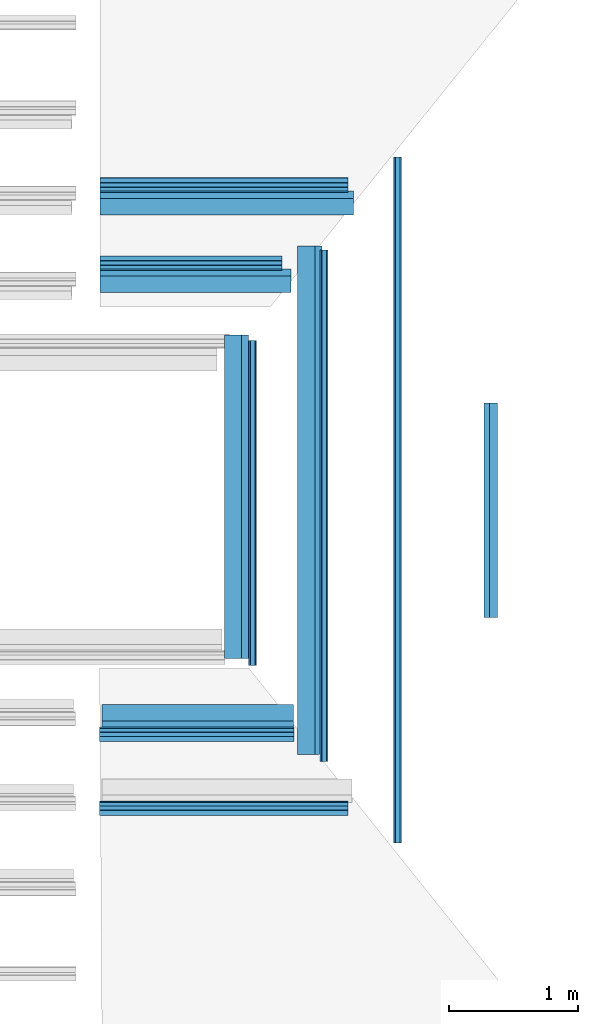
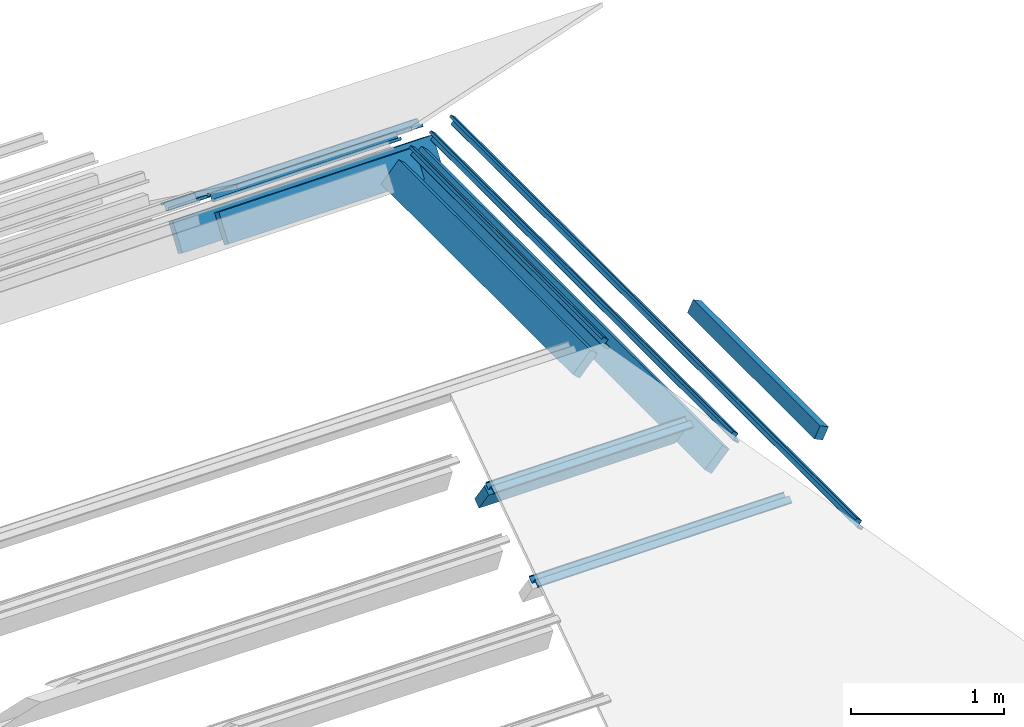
# One storey, part 4 of 6: 13 beams.
"""IFC2X3 building model written with IfcOpenShell, lengths in centimetres."""

from ifc_helpers import new_model, entity, si_unit, converted_unit, direction, frame, frame_2d, origin, place, context, subcontext, project, spatial, polyline, circle_curve, parameter, trimmed, segment, composite_curve, rectangle, outline, extrude, material, type_object, element, save


model = new_model("IFC2X3")

# Units and contexts
model_context = context("Model", 3, precision=0.001, world=frame((0.0, 0.0, 13090.0)), true_north=direction((6.123233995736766e-17, 1.0)))
body_context = subcontext(model_context, "Body", "Model", "MODEL_VIEW")
ifc_project = project(units=[si_unit("LENGTHUNIT", "METRE", prefix="CENTI"), si_unit("AREAUNIT", "SQUARE_METRE"), si_unit("VOLUMEUNIT", "CUBIC_METRE"), converted_unit("PLANEANGLEUNIT", "DEGREE", entity("IfcPlaneAngleMeasure", 0.017453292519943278), si_unit("PLANEANGLEUNIT", "RADIAN"), dimensions=[0, 0, 0, 0, 0, 0, 0])], contexts=[model_context])

# Site, building, storey
site_placement = place(None, origin())
site = spatial("IfcSite", under=ifc_project, at=site_placement, Name="Default", CompositionType="ELEMENT")
building_placement = place(site_placement, origin())
building = spatial("IfcBuilding", under=site, at=building_placement, Name="e 39 logements et 22 maisons relais", CompositionType="ELEMENT")
storey_placement = place(building_placement, frame((0.0, 0.0, 810.0)))
storey = spatial("IfcBuildingStorey", under=building, at=storey_placement, Name="R+3", CompositionType="ELEMENT", Elevation=810.0000000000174)

# Beams
ifc_material_1 = material(Name="Bois - Bois de construction de dimensions courantes")
beam_type_1 = type_object("IfcBeamType", Name="Poutre - Bois de construction de dimensions courantes:70 220", PredefinedType="BEAM")
beam_1_placement = place(storey_placement, frame((286.634807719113, 212.95830698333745, -95.2501533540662)))
element("IfcBeam", 1, at=beam_1_placement, inside=storey, type_object=beam_type_1, material=ifc_material_1, Name="Poutre - Bois de construction de dimensions courantes:70 220", ObjectType="Poutre - Bois de construction de dimensions courantes:70 220", context=body_context, shape_type="SweptSolid", body=[
    extrude(rectangle(XDim=21.999999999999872, YDim=7.000000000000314, at=frame_2d((3.1308289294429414e-14, -4.3520742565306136e-14), x_axis=(0.0, 1.0))), frame((321.05529287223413, -6.309340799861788, -9.010672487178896), z_axis=(1.0, 0.0, 0.0), x_axis=(0.0, -0.8191520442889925, 0.5735764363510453)), (0.0, 0.0, 1.0), 195.81808429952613),
])
beam_2_placement = place(storey_placement, frame((286.63480771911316, 152.86204513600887, -51.70688154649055)))
element("IfcBeam", 2, at=beam_2_placement, inside=storey, type_object=beam_type_1, material=ifc_material_1, Name="Poutre - Bois de construction de dimensions courantes:70 220", ObjectType="Poutre - Bois de construction de dimensions courantes:70 220", context=body_context, shape_type="SweptSolid", body=[
    extrude(rectangle(XDim=21.999999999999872, YDim=7.000000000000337, at=frame_2d((-4.1744385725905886e-14, 3.730349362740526e-14), x_axis=(0.0, 1.0))), frame((321.0552928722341, -6.309340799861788, -9.010672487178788), z_axis=(1.0, 0.0, 0.0), x_axis=(0.0, -0.8191520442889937, 0.5735764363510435)), (0.0, 0.0, 1.0), 147.5732498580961),
])
beam_3_placement = place(storey_placement, frame((286.63480771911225, -196.54922966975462, -61.80907122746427)))
element("IfcBeam", 3, at=beam_3_placement, inside=storey, type_object=beam_type_1, material=ifc_material_1, Name="Poutre - Bois de construction de dimensions courantes:70 220", ObjectType="Poutre - Bois de construction de dimensions courantes:70 220", context=body_context, shape_type="SweptSolid", body=[
    extrude(rectangle(XDim=21.999999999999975, YDim=7.000000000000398, at=frame_2d((4.3520742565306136e-14, -3.1308289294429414e-14), x_axis=(1.0, 0.0))), frame((322.52620840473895, 6.309340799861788, -9.010672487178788), z_axis=(1.0, 0.0, 0.0), x_axis=(0.0, -0.5735764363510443, 0.8191520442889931)), (0.0, 0.0, 1.0), 147.75069344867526),
])
beam_type_2 = type_object("IfcBeamType", Name="Poutre - Bois de construction de dimensions courantes:70 200", PredefinedType="BEAM")
beam_4_placement = place(storey_placement, frame((776.2956395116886, 514.0076677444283, -71.92904448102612), z_axis=(0.0, 0.0, 1.0), x_axis=(0.0, -1.0, 0.0)))
element("IfcBeam", 4, at=beam_4_placement, inside=storey, type_object=beam_type_2, material=ifc_material_1, Name="Poutre - Bois de construction de dimensions courantes:70 200", ObjectType="Poutre - Bois de construction de dimensions courantes:70 200", context=body_context, shape_type="SweptSolid", body=[
    extrude(rectangle(XDim=19.999999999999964, YDim=7.000000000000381, at=frame_2d((-3.9968028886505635e-15, -7.72715225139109e-14), x_axis=(0.0, 1.0))), frame((340.5954574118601, -6.69130606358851, -7.4314482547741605), z_axis=(1.0, 0.0, 0.0), x_axis=(0.0, -0.7431448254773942, 0.6691306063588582)), (0.0, 0.0, 1.0), 393.0256257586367),
])
beam_5_placement = place(storey_placement, frame((719.6493766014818, 514.007667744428, -21.13802129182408), z_axis=(0.0, 0.0, 1.0), x_axis=(0.0, -1.0, 0.0)))
element("IfcBeam", 5, at=beam_5_placement, inside=storey, type_object=beam_type_2, material=ifc_material_1, Name="Poutre - Bois de construction de dimensions courantes:70 200", ObjectType="Poutre - Bois de construction de dimensions courantes:70 200", context=body_context, shape_type="SweptSolid", body=[
    extrude(rectangle(XDim=19.99999999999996, YDim=7.00000000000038, at=frame_2d((3.774758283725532e-15, 7.72715225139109e-14), x_axis=(0.0, 1.0))), frame((409.256331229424, -6.691306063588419, -7.4314482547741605), z_axis=(1.0, 0.0, 0.0), x_axis=(0.0, -0.7431448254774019, 0.6691306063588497)), (0.0, 0.0, 1.0), 250.2702016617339),
])
beam_type_3 = type_object("IfcBeamType", Name="Poutre - Bois de construction de dimensions courantes:70 100", PredefinedType="BEAM")
beam_6_placement = place(storey_placement, frame((946.877073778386, 147.73427520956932, -92.86580211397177), z_axis=(0.0, 0.0, 1.0), x_axis=(0.0, -1.0, 0.0)))
element("IfcBeam", 6, at=beam_6_placement, inside=storey, type_object=beam_type_3, material=ifc_material_1, Name="Poutre - Bois de construction de dimensions courantes:70 100", ObjectType="Poutre - Bois de construction de dimensions courantes:70 100", context=body_context, shape_type="SweptSolid", body=[
    extrude(rectangle(XDim=10.000000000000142, YDim=7.00000000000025, at=frame_2d((2.531308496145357e-14, 7.194245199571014e-14), x_axis=(0.0, 1.0))), frame((95.56011376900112, -37.45446542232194, -78.52491973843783), z_axis=(1.0, 0.0, 0.0), x_axis=(0.0, -0.9025852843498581, 0.43051109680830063)), (0.0, 0.0, 1.0), 165.75517344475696),
])
ifc_material_2 = material(Name="neuf")
beam_type_4 = type_object("IfcBeamType", Name="panne z:panne z", PredefinedType="BEAM")
beam_7_placement = place(storey_placement, frame((849.925426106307, 514.0076677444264, -99.32404114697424), z_axis=(0.0, 0.0, 1.0), x_axis=(0.0, -1.0, 0.0)))
element("IfcBeam", 7, at=beam_7_placement, inside=storey, type_object=beam_type_4, material=ifc_material_2, Name="panne z:panne z", ObjectType="panne z:panne z", context=body_context, shape_type="SweptSolid", body=[
    extrude(outline(composite_curve([segment(polyline([(0.29999999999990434, -3.0), (4.59999999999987, -3.0)]), True, "CONTINUOUS"), segment(trimmed(circle_curve(frame_2d((4.600000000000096, -2.6000000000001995), x_axis=(0.0, -1.0)), 0.399999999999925), [parameter(0.0)], [parameter(90.000000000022)], True, "PARAMETER"), True, "CONTINUOUS"), segment(polyline([(5.0, -2.6000000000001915), (5.0, -1.0)]), True, "CONTINUOUS"), segment(polyline([(5.0, -1.0), (4.799999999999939, -1.0)]), True, "CONTINUOUS"), segment(polyline([(4.80000000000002, -1.0), (4.799999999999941, -2.6000000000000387)]), True, "CONTINUOUS"), segment(trimmed(circle_curve(frame_2d((4.59999999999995, -2.6000000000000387), x_axis=(1.0, 0.0)), 0.20000000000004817), [parameter(270.0000000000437)], [parameter(0.0)], True, "PARAMETER"), False, "CONTINUOUS"), segment(polyline([(4.599999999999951, -2.8000000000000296), (0.2999999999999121, -2.79999999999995)]), True, "CONTINUOUS"), segment(trimmed(circle_curve(frame_2d((0.30000000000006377, -2.599999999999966), x_axis=(0.0, -1.0)), 0.2000000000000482), [parameter(270.0000000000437)], [parameter(0.0)], True, "PARAMETER"), False, "CONTINUOUS"), segment(polyline([(0.09999999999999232, -2.6000000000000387), (0.09999999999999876, 2.6000000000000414)]), True, "CONTINUOUS"), segment(trimmed(circle_curve(frame_2d((-0.2999999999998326, 2.600000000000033), x_axis=(1.0, 0.0)), 0.399999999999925), [parameter(0.0)], [parameter(90.000000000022)], True, "PARAMETER"), True, "CONTINUOUS"), segment(polyline([(-0.2999999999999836, 3.0), (-4.6000000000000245, 3.0)]), True, "CONTINUOUS"), segment(trimmed(circle_curve(frame_2d((-4.600000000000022, 2.6000000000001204), x_axis=(0.0, 1.0)), 0.399999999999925), [parameter(0.0)], [parameter(90.000000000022)], True, "PARAMETER"), True, "CONTINUOUS"), segment(polyline([(-5.0, 2.6000000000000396), (-5.0, 1.0)]), True, "CONTINUOUS"), segment(polyline([(-5.0, 1.0), (-4.8000000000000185, 1.0)]), True, "CONTINUOUS"), segment(polyline([(-4.8000000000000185, 1.0), (-4.800000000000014, 2.6000000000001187)]), True, "CONTINUOUS"), segment(trimmed(circle_curve(frame_2d((-4.599999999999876, 2.5999999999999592), x_axis=(-1.0, 0.0)), 0.20000000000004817), [parameter(270.0000000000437)], [parameter(0.0)], True, "PARAMETER"), False, "CONTINUOUS"), segment(polyline([(-4.59999999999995, 2.800000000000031), (-0.29999999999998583, 2.800000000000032)]), True, "CONTINUOUS"), segment(trimmed(circle_curve(frame_2d((-0.2999999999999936, 2.5999999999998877), x_axis=(0.0, 1.0)), 0.2000000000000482), [parameter(270.0000000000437)], [parameter(0.0)], True, "PARAMETER"), False, "CONTINUOUS"), segment(polyline([(-0.09999999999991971, 2.5999999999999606), (-0.10000000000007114, -2.599999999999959)]), True, "CONTINUOUS"), segment(trimmed(circle_curve(frame_2d((0.2999999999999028, -2.6000000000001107), x_axis=(-1.0, 0.0)), 0.399999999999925), [parameter(0.0)], [parameter(90.000000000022)], True, "PARAMETER"), True, "CONTINUOUS")], self_intersect=False)), frame((272.00255935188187, -12.500988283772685, -13.883754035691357), z_axis=(1.0, 0.0, 0.0), x_axis=(0.0, -0.7431448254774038, 0.6691306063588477)), (0.0, 0.0, 1.0), 529.8060231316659),
])
beam_8_placement = place(storey_placement, frame((793.1368702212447, 514.0076677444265, -48.376563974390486), z_axis=(0.0, 0.0, 1.0), x_axis=(0.0, -1.0, 0.0)))
element("IfcBeam", 8, at=beam_8_placement, inside=storey, type_object=beam_type_4, material=ifc_material_2, Name="panne z:panne z", ObjectType="panne z:panne z", context=body_context, shape_type="SweptSolid", body=[
    extrude(outline(composite_curve([segment(polyline([(0.29999999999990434, -3.0), (4.599999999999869, -3.0)]), True, "CONTINUOUS"), segment(trimmed(circle_curve(frame_2d((4.600000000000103, -2.6000000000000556), x_axis=(0.0, -1.0)), 0.399999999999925), [parameter(0.0)], [parameter(90.000000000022)], True, "PARAMETER"), True, "CONTINUOUS"), segment(polyline([(5.0, -2.6000000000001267), (5.0, -1.0)]), True, "CONTINUOUS"), segment(polyline([(5.0, -1.0), (4.799999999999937, -1.0)]), True, "CONTINUOUS"), segment(polyline([(4.800000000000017, -1.0), (4.799999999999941, -2.6000000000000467)]), True, "CONTINUOUS"), segment(trimmed(circle_curve(frame_2d((4.599999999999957, -2.599999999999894), x_axis=(1.0, 0.0)), 0.20000000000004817), [parameter(270.0000000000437)], [parameter(0.0)], True, "PARAMETER"), False, "CONTINUOUS"), segment(polyline([(4.59999999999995, -2.800000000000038), (0.2999999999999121, -2.7999999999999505)]), True, "CONTINUOUS"), segment(trimmed(circle_curve(frame_2d((0.30000000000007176, -2.599999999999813), x_axis=(0.0, -1.0)), 0.2000000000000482), [parameter(270.0000000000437)], [parameter(0.0)], True, "PARAMETER"), False, "CONTINUOUS"), segment(polyline([(0.0999999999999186, -2.5999999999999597), (0.09999999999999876, 2.6000000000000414)]), True, "CONTINUOUS"), segment(trimmed(circle_curve(frame_2d((-0.2999999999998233, 2.6000000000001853), x_axis=(1.0, 0.0)), 0.399999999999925), [parameter(0.0)], [parameter(90.000000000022)], True, "PARAMETER"), True, "CONTINUOUS"), segment(polyline([(-0.29999999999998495, 3.0), (-4.600000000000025, 3.0)]), True, "CONTINUOUS"), segment(trimmed(circle_curve(frame_2d((-4.6000000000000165, 2.600000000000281), x_axis=(0.0, 1.0)), 0.399999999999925), [parameter(0.0)], [parameter(90.000000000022)], True, "PARAMETER"), True, "CONTINUOUS"), segment(polyline([(-5.0, 2.6000000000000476), (-5.0, 1.0)]), True, "CONTINUOUS"), segment(polyline([(-5.0, 1.0), (-4.8000000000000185, 1.0)]), True, "CONTINUOUS"), segment(polyline([(-4.799999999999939, 1.0), (-4.800000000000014, 2.6000000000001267)]), True, "CONTINUOUS"), segment(trimmed(circle_curve(frame_2d((-4.599999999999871, 2.6000000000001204), x_axis=(-1.0, 0.0)), 0.20000000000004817), [parameter(270.0000000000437)], [parameter(0.0)], True, "PARAMETER"), False, "CONTINUOUS"), segment(polyline([(-4.599999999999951, 2.800000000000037), (-0.29999999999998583, 2.8000000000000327)]), True, "CONTINUOUS"), segment(trimmed(circle_curve(frame_2d((-0.2999999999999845, 2.6000000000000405), x_axis=(0.0, 1.0)), 0.2000000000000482), [parameter(270.0000000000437)], [parameter(0.0)], True, "PARAMETER"), False, "CONTINUOUS"), segment(polyline([(-0.09999999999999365, 2.6000000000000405), (-0.10000000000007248, -2.5999999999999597)]), True, "CONTINUOUS"), segment(trimmed(circle_curve(frame_2d((0.2999999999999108, -2.599999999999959), x_axis=(-1.0, 0.0)), 0.399999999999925), [parameter(0.0)], [parameter(90.000000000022)], True, "PARAMETER"), True, "CONTINUOUS")], self_intersect=False)), frame((343.91832465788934, -12.500988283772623, -13.883754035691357), z_axis=(1.0, 0.0, 0.0), x_axis=(0.0, -0.7431448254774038, 0.6691306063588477)), (0.0, 0.0, 1.0), 394.8432605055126),
])
beam_9_placement = place(storey_placement, frame((737.8671982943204, 514.0076677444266, 1.1304066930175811), z_axis=(0.0, 0.0, 1.0), x_axis=(0.0, -1.0, 0.0)))
element("IfcBeam", 9, at=beam_9_placement, inside=storey, type_object=beam_type_4, material=ifc_material_2, Name="panne z:panne z", ObjectType="panne z:panne z", context=body_context, shape_type="SweptSolid", body=[
    extrude(outline(composite_curve([segment(polyline([(0.3000000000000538, -3.0), (4.600000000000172, -3.0)]), True, "CONTINUOUS"), segment(trimmed(circle_curve(frame_2d((4.600000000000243, -2.60000000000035), x_axis=(0.0, -1.0)), 0.399999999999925), [parameter(0.0)], [parameter(90.000000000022)], True, "PARAMETER"), True, "CONTINUOUS"), segment(polyline([(5.0, -2.600000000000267), (5.0, -1.0)]), True, "CONTINUOUS"), segment(polyline([(5.0, -1.0), (4.800000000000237, -1.0)]), True, "CONTINUOUS"), segment(polyline([(4.800000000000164, -1.0), (4.800000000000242, -2.600000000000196)]), True, "CONTINUOUS"), segment(trimmed(circle_curve(frame_2d((4.600000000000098, -2.600000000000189), x_axis=(1.0, 0.0)), 0.20000000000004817), [parameter(270.0000000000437)], [parameter(0.0)], True, "PARAMETER"), False, "CONTINUOUS"), segment(polyline([(4.600000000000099, -2.8000000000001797), (0.3000000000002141, -2.8000000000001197)]), True, "CONTINUOUS"), segment(trimmed(circle_curve(frame_2d((0.3000000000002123, -2.6000000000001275), x_axis=(0.0, -1.0)), 0.2000000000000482), [parameter(270.0000000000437)], [parameter(0.0)], True, "PARAMETER"), False, "CONTINUOUS"), segment(polyline([(0.10000000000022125, -2.600000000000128), (0.10000000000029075, 2.5999999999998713)]), True, "CONTINUOUS"), segment(trimmed(circle_curve(frame_2d((-0.2999999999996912, 2.59999999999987), x_axis=(1.0, 0.0)), 0.399999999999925), [parameter(0.0)], [parameter(90.000000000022)], True, "PARAMETER"), True, "CONTINUOUS"), segment(polyline([(-0.29999999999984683, 3.0), (-4.599999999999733, 3.0)]), True, "CONTINUOUS"), segment(trimmed(circle_curve(frame_2d((-4.599999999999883, 2.5999999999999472), x_axis=(0.0, 1.0)), 0.399999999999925), [parameter(0.0)], [parameter(90.000000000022)], True, "PARAMETER"), True, "CONTINUOUS"), segment(polyline([(-5.0, 2.5999999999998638), (-5.0, 1.0)]), True, "CONTINUOUS"), segment(polyline([(-5.0, 1.0), (-4.799999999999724, 1.0)]), True, "CONTINUOUS"), segment(polyline([(-4.799999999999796, 1.0), (-4.79999999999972, 2.5999999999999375)]), True, "CONTINUOUS"), segment(trimmed(circle_curve(frame_2d((-4.5999999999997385, 2.5999999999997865), x_axis=(-1.0, 0.0)), 0.20000000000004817), [parameter(270.0000000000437)], [parameter(0.0)], True, "PARAMETER"), False, "CONTINUOUS"), segment(polyline([(-4.599999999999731, 2.7999999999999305), (-0.29999999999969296, 2.799999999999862)]), True, "CONTINUOUS"), segment(trimmed(circle_curve(frame_2d((-0.29999999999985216, 2.5999999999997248), x_axis=(0.0, 1.0)), 0.2000000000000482), [parameter(270.0000000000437)], [parameter(0.0)], True, "PARAMETER"), False, "CONTINUOUS"), segment(polyline([(-0.09999999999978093, 2.599999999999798), (-0.0999999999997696, -2.600000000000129)]), True, "CONTINUOUS"), segment(trimmed(circle_curve(frame_2d((0.30000000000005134, -2.6000000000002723), x_axis=(-1.0, 0.0)), 0.399999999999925), [parameter(0.0)], [parameter(90.000000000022)], True, "PARAMETER"), True, "CONTINUOUS")], self_intersect=False)), frame((413.59370708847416, -12.500988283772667, -13.883754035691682), z_axis=(1.0, 0.0, 0.0), x_axis=(0.0, -0.7431448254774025, 0.669130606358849)), (0.0, 0.0, 1.0), 251.37372765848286),
])
beam_10_placement = place(storey_placement, frame((286.6348077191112, -262.5087580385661, -92.60867093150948)))
element("IfcBeam", 10, at=beam_10_placement, inside=storey, type_object=beam_type_4, material=ifc_material_2, Name="panne z:panne z", ObjectType="panne z:panne z", context=body_context, shape_type="SweptSolid", body=[
    extrude(outline(composite_curve([segment(trimmed(circle_curve(frame_2d((-0.3000000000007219, 2.59999999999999), x_axis=(1.0, 0.0)), 0.3999999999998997), [parameter(0.0)], [parameter(90.00000000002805)], True, "PARAMETER"), True, "CONTINUOUS"), segment(polyline([(-0.30000000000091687, 3.0), (-4.6000000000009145, 3.0)]), True, "CONTINUOUS"), segment(trimmed(circle_curve(frame_2d((-4.6000000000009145, 2.5999999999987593), x_axis=(0.0, 1.0)), 0.39999999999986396), [parameter(0.0)], [parameter(90.00000000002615)], True, "PARAMETER"), True, "CONTINUOUS"), segment(polyline([(-5.0, 2.5999999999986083), (-5.0, 1.0)]), True, "CONTINUOUS"), segment(polyline([(-5.0, 1.0), (-4.800000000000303, 1.0)]), True, "CONTINUOUS"), segment(polyline([(-4.800000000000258, 1.0), (-4.800000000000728, 2.5999999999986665)]), True, "CONTINUOUS"), segment(trimmed(circle_curve(frame_2d((-4.600000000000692, 2.599999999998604), x_axis=(-1.0, 0.0)), 0.20000000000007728), [parameter(270.00000000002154)], [parameter(0.0)], True, "PARAMETER"), False, "CONTINUOUS"), segment(polyline([(-4.600000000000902, 2.79999999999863), (-0.30000000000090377, 2.7999999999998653)]), True, "CONTINUOUS"), segment(trimmed(circle_curve(frame_2d((-0.30000000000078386, 2.5999999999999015), x_axis=(0.0, 1.0)), 0.2000000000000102), [parameter(270.00000000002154)], [parameter(0.0)], True, "PARAMETER"), False, "CONTINUOUS"), segment(polyline([(-0.1000000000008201, 2.600000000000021), (-0.09999999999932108, -2.6000000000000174)]), True, "CONTINUOUS"), segment(trimmed(circle_curve(frame_2d((0.30000000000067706, -2.5999999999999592), x_axis=(-1.0, 0.0)), 0.3999999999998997), [parameter(0.0)], [parameter(90.00000000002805)], True, "PARAMETER"), True, "CONTINUOUS"), segment(polyline([(0.3000000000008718, -3.0), (4.60000000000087, -3.0)]), True, "CONTINUOUS"), segment(trimmed(circle_curve(frame_2d((4.600000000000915, -2.5999999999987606), x_axis=(0.0, -1.0)), 0.39999999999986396), [parameter(0.0)], [parameter(90.00000000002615)], True, "PARAMETER"), True, "CONTINUOUS"), segment(polyline([(5.0, -2.5999999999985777), (5.0, -1.0)]), True, "CONTINUOUS"), segment(polyline([(5.0, -1.0), (4.8000000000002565, -1.0)]), True, "CONTINUOUS"), segment(polyline([(4.800000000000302, -1.0), (4.800000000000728, -2.5999999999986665)]), True, "CONTINUOUS"), segment(trimmed(circle_curve(frame_2d((4.600000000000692, -2.5999999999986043), x_axis=(1.0, 0.0)), 0.20000000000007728), [parameter(270.00000000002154)], [parameter(0.0)], True, "PARAMETER"), False, "CONTINUOUS"), segment(polyline([(4.600000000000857, -2.799999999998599), (0.3000000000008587, -2.7999999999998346)]), True, "CONTINUOUS"), segment(trimmed(circle_curve(frame_2d((0.300000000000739, -2.5999999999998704), x_axis=(0.0, -1.0)), 0.2000000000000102), [parameter(270.00000000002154)], [parameter(0.0)], True, "PARAMETER"), False, "CONTINUOUS"), segment(polyline([(0.10000000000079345, -2.599999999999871), (0.09999999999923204, 2.6000000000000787)]), True, "CONTINUOUS")], self_intersect=False)), frame((320.6152120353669, 1.538580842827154, -2.1973211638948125), z_axis=(1.0, 0.0, 0.0), x_axis=(0.0, 0.8191520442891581, 0.5735764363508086)), (0.0, 0.0, 1.0), 191.86784054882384),
])
beam_11_placement = place(storey_placement, frame((286.6348077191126, 221.98366673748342, -86.0495928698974)))
element("IfcBeam", 11, at=beam_11_placement, inside=storey, type_object=beam_type_4, material=ifc_material_2, Name="panne z:panne z", ObjectType="panne z:panne z", context=body_context, shape_type="SweptSolid", body=[
    extrude(outline(composite_curve([segment(polyline([(-4.60000000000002, -3.0), (-0.30000000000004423, -3.0)]), True, "CONTINUOUS"), segment(trimmed(circle_curve(frame_2d((-0.3000000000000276, -2.599999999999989), x_axis=(0.0, -1.0)), 0.399999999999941), [parameter(0.0)], [parameter(90.00000000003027)], True, "PARAMETER"), True, "CONTINUOUS"), segment(polyline([(0.10000000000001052, -2.6000000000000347), (0.09999999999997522, 2.599999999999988)]), True, "CONTINUOUS"), segment(trimmed(circle_curve(frame_2d((0.2999999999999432, 2.600000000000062), x_axis=(-1.0, 0.0)), 0.20000000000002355), [parameter(270.0000000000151)], [parameter(0.0)], True, "PARAMETER"), False, "CONTINUOUS"), segment(polyline([(0.3000000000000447, 2.799999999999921), (4.600000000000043, 2.799999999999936)]), True, "CONTINUOUS"), segment(trimmed(circle_curve(frame_2d((4.599999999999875, 2.6000000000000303), x_axis=(0.0, 1.0)), 0.2000000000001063), [parameter(270.00000000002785)], [parameter(0.0)], True, "PARAMETER"), False, "CONTINUOUS"), segment(polyline([(4.799999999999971, 2.600000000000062), (4.800000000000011, 1.0)]), True, "CONTINUOUS"), segment(polyline([(4.799999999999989, 1.0), (5.0, 1.0)]), True, "CONTINUOUS"), segment(polyline([(5.0, 1.0), (5.0, 2.600000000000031)]), True, "CONTINUOUS"), segment(trimmed(circle_curve(frame_2d((4.599999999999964, 2.6000000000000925), x_axis=(1.0, 0.0)), 0.3999999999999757), [parameter(0.0)], [parameter(89.99999999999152)], True, "PARAMETER"), True, "CONTINUOUS"), segment(polyline([(4.600000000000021, 3.0), (0.2999999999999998, 3.0)]), True, "CONTINUOUS"), segment(trimmed(circle_curve(frame_2d((0.29999999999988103, 2.60000000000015), x_axis=(0.0, 1.0)), 0.399999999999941), [parameter(0.0)], [parameter(90.00000000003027)], True, "PARAMETER"), True, "CONTINUOUS"), segment(polyline([(-0.1000000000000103, 2.6000000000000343), (-0.1000000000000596, -2.5999999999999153)]), True, "CONTINUOUS"), segment(trimmed(circle_curve(frame_2d((-0.30000000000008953, -2.5999999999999), x_axis=(1.0, 0.0)), 0.20000000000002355), [parameter(270.0000000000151)], [parameter(0.0)], True, "PARAMETER"), False, "CONTINUOUS"), segment(polyline([(-0.3000000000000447, -2.7999999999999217), (-4.600000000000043, -2.7999999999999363)]), True, "CONTINUOUS"), segment(trimmed(circle_curve(frame_2d((-4.5999999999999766, -2.5999999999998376), x_axis=(0.0, -1.0)), 0.2000000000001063), [parameter(270.00000000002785)], [parameter(0.0)], True, "PARAMETER"), False, "CONTINUOUS"), segment(polyline([(-4.79999999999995, -2.6000000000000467), (-4.799999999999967, -1.0)]), True, "CONTINUOUS"), segment(polyline([(-4.799999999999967, -1.0), (-5.0, -1.0)]), True, "CONTINUOUS"), segment(polyline([(-5.0, -1.0), (-5.0, -2.600000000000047)]), True, "CONTINUOUS"), segment(trimmed(circle_curve(frame_2d((-4.600000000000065, -2.5999999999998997), x_axis=(-1.0, 0.0)), 0.3999999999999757), [parameter(0.0)], [parameter(89.99999999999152)], True, "PARAMETER"), True, "CONTINUOUS")], self_intersect=False)), frame((321.05529287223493, -1.5385808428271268, -2.1973211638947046), z_axis=(1.0, 0.0, 0.0), x_axis=(0.0, -0.8191520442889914, 0.5735764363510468)), (0.0, 0.0, 1.0), 191.42775971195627),
])
beam_12_placement = place(storey_placement, frame((286.6348077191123, 161.69204731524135, -42.26816269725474)))
element("IfcBeam", 12, at=beam_12_placement, inside=storey, type_object=beam_type_4, material=ifc_material_2, Name="panne z:panne z", ObjectType="panne z:panne z", context=body_context, shape_type="SweptSolid", body=[
    extrude(outline(composite_curve([segment(polyline([(-4.5999999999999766, -3.0), (-0.2999999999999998, -3.0)]), True, "CONTINUOUS"), segment(trimmed(circle_curve(frame_2d((-0.2999999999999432, -2.6000000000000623), x_axis=(0.0, -1.0)), 0.399999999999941), [parameter(0.0)], [parameter(90.00000000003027)], True, "PARAMETER"), True, "CONTINUOUS"), segment(polyline([(0.10000000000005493, -2.6000000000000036), (0.10000000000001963, 2.600000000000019)]), True, "CONTINUOUS"), segment(trimmed(circle_curve(frame_2d((0.3000000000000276, 2.5999999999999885), x_axis=(-1.0, 0.0)), 0.20000000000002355), [parameter(270.0000000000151)], [parameter(0.0)], True, "PARAMETER"), False, "CONTINUOUS"), segment(polyline([(0.3000000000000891, 2.7999999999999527), (4.6000000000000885, 2.7999999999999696)]), True, "CONTINUOUS"), segment(trimmed(circle_curve(frame_2d((4.5999999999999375, 2.5999999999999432), x_axis=(0.0, 1.0)), 0.2000000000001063), [parameter(270.00000000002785)], [parameter(0.0)], True, "PARAMETER"), False, "CONTINUOUS"), segment(polyline([(4.800000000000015, 2.6000000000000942), (4.800000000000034, 1.0)]), True, "CONTINUOUS"), segment(polyline([(4.800000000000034, 1.0), (5.0, 1.0)]), True, "CONTINUOUS"), segment(polyline([(5.0, 1.0), (5.0, 2.600000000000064)]), True, "CONTINUOUS"), segment(trimmed(circle_curve(frame_2d((4.600000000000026, 2.6000000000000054), x_axis=(1.0, 0.0)), 0.3999999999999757), [parameter(0.0)], [parameter(89.99999999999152)], True, "PARAMETER"), True, "CONTINUOUS"), segment(polyline([(4.600000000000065, 3.0), (0.30000000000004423, 3.0)]), True, "CONTINUOUS"), segment(trimmed(circle_curve(frame_2d((0.2999999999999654, 2.6000000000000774), x_axis=(0.0, 1.0)), 0.399999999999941), [parameter(0.0)], [parameter(90.00000000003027)], True, "PARAMETER"), True, "CONTINUOUS"), segment(polyline([(-0.0999999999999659, 2.6000000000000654), (-0.09999999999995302, -2.599999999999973)]), True, "CONTINUOUS"), segment(trimmed(circle_curve(frame_2d((-0.3000000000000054, -2.599999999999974), x_axis=(1.0, 0.0)), 0.20000000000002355), [parameter(270.0000000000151)], [parameter(0.0)], True, "PARAMETER"), False, "CONTINUOUS"), segment(polyline([(-0.30000000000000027, -2.7999999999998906), (-4.599999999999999, -2.799999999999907)]), True, "CONTINUOUS"), segment(trimmed(circle_curve(frame_2d((-4.599999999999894, -2.5999999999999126), x_axis=(0.0, -1.0)), 0.2000000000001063), [parameter(270.00000000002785)], [parameter(0.0)], True, "PARAMETER"), False, "CONTINUOUS"), segment(polyline([(-4.799999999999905, -2.600000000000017), (-4.7999999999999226, -1.0)]), True, "CONTINUOUS"), segment(polyline([(-4.7999999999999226, -1.0), (-5.0, -1.0)]), True, "CONTINUOUS"), segment(polyline([(-5.0, -1.0), (-5.0, -2.6000000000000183)]), True, "CONTINUOUS"), segment(trimmed(circle_curve(frame_2d((-4.599999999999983, -2.5999999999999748), x_axis=(-1.0, 0.0)), 0.3999999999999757), [parameter(0.0)], [parameter(89.99999999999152)], True, "PARAMETER"), True, "CONTINUOUS")], self_intersect=False)), frame((321.0552928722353, -1.5385808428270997, -2.1973211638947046), z_axis=(1.0, 0.0, 0.0), x_axis=(0.0, -0.8191520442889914, 0.5735764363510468)), (0.0, 0.0, 1.0), 140.30164204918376),
])
beam_13_placement = place(storey_placement, frame((286.6348077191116, -205.55268795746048, -52.49118217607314)))
element("IfcBeam", 13, at=beam_13_placement, inside=storey, type_object=beam_type_4, material=ifc_material_2, Name="panne z:panne z", ObjectType="panne z:panne z", context=body_context, shape_type="SweptSolid", body=[
    extrude(outline(composite_curve([segment(trimmed(circle_curve(frame_2d((-0.3000000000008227, 2.5999999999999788), x_axis=(1.0, 0.0)), 0.399999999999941), [parameter(0.0)], [parameter(90.00000000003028)], True, "PARAMETER"), True, "CONTINUOUS"), segment(polyline([(-0.30000000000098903, 3.0), (-4.600000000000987, 3.0)]), True, "CONTINUOUS"), segment(trimmed(circle_curve(frame_2d((-4.600000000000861, 2.599999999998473), x_axis=(0.0, 1.0)), 0.3999999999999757), [parameter(0.0)], [parameter(89.99999999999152)], True, "PARAMETER"), True, "CONTINUOUS"), segment(polyline([(-5.0, 2.599999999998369), (-5.0, 1.0)]), True, "CONTINUOUS"), segment(polyline([(-5.0, 1.0), (-4.800000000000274, 1.0)]), True, "CONTINUOUS"), segment(polyline([(-4.800000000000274, 1.0), (-4.800000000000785, 2.599999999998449)]), True, "CONTINUOUS"), segment(trimmed(circle_curve(frame_2d((-4.600000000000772, 2.5999999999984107), x_axis=(-1.0, 0.0)), 0.2000000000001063), [parameter(270.00000000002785)], [parameter(0.0)], True, "PARAMETER"), False, "CONTINUOUS"), segment(polyline([(-4.600000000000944, 2.7999999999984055), (-0.30000000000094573, 2.799999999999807)]), True, "CONTINUOUS"), segment(trimmed(circle_curve(frame_2d((-0.30000000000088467, 2.5999999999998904), x_axis=(0.0, 1.0)), 0.20000000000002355), [parameter(270.0000000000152)], [parameter(0.0)], True, "PARAMETER"), False, "CONTINUOUS"), segment(polyline([(-0.10000000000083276, 2.5999999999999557), (-0.09999999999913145, -2.6000000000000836)]), True, "CONTINUOUS"), segment(trimmed(circle_curve(frame_2d((0.30000000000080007, -2.5999999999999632), x_axis=(-1.0, 0.0)), 0.399999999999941), [parameter(0.0)], [parameter(90.00000000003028)], True, "PARAMETER"), True, "CONTINUOUS"), segment(polyline([(0.3000000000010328, -3.0), (4.600000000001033, -3.0)]), True, "CONTINUOUS"), segment(trimmed(circle_curve(frame_2d((4.600000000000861, -2.599999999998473), x_axis=(0.0, -1.0)), 0.3999999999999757), [parameter(0.0)], [parameter(89.99999999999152)], True, "PARAMETER"), True, "CONTINUOUS"), segment(polyline([(5.0, -2.599999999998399), (5.0, -1.0)]), True, "CONTINUOUS"), segment(polyline([(5.0, -1.0), (4.800000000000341, -1.0)]), True, "CONTINUOUS"), segment(polyline([(4.800000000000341, -1.0), (4.800000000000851, -2.599999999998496)]), True, "CONTINUOUS"), segment(trimmed(circle_curve(frame_2d((4.600000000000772, -2.5999999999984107), x_axis=(1.0, 0.0)), 0.2000000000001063), [parameter(270.00000000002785)], [parameter(0.0)], True, "PARAMETER"), False, "CONTINUOUS"), segment(polyline([(4.600000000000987, -2.7999999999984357), (0.3000000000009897, -2.799999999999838)]), True, "CONTINUOUS"), segment(trimmed(circle_curve(frame_2d((0.30000000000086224, -2.599999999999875), x_axis=(0.0, -1.0)), 0.20000000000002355), [parameter(270.0000000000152)], [parameter(0.0)], True, "PARAMETER"), False, "CONTINUOUS"), segment(polyline([(0.10000000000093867, -2.599999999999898), (0.09999999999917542, 2.600000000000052)]), True, "CONTINUOUS")], self_intersect=False)), frame((320.6152120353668, 1.5385808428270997, -2.1973211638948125), z_axis=(1.0, 0.0, 0.0), x_axis=(0.0, 0.8191520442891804, 0.5735764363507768)), (0.0, 0.0, 1.0), 150.3184597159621),
])

save(model, "model.ifc")
